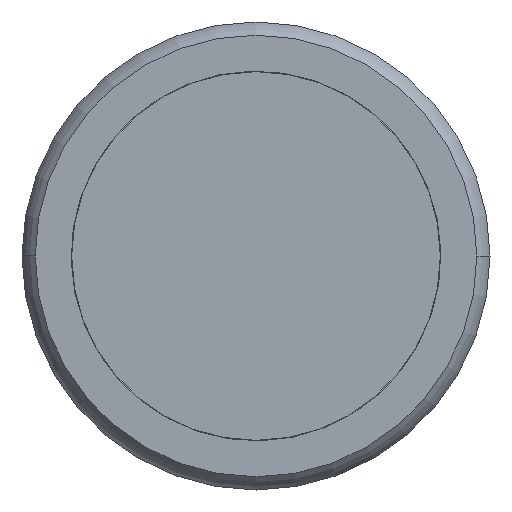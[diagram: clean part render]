
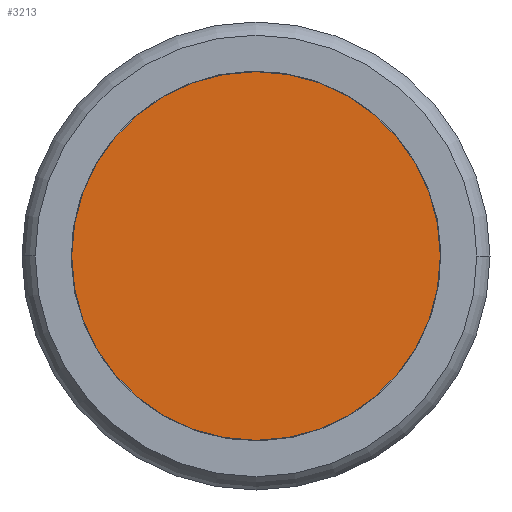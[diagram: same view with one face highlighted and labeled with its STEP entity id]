
A CAD part, front view. The second image highlights one B-rep face of the part: STEP entity #3213.
In plain terms, the highlighted planar face has unit normal (0, -1, 0) as drawn and (-1, 0, 0) by its records, which use the part's own axes.
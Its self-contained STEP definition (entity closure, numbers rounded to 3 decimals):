
#42 = EDGE_CURVE ( 'NONE', #5435, #5458, #3351, .T. ) ;
#1473 = DIRECTION ( 'NONE',  ( 1., 0., 0. ) ) ;
#1491 = CARTESIAN_POINT ( 'NONE',  ( 0.374, 0., 0. ) ) ;
#1493 = DIRECTION ( 'NONE',  ( 0., 1., 0. ) ) ;
#1960 = CARTESIAN_POINT ( 'NONE',  ( 0.374, 0., 1.58 ) ) ;
#2023 = CARTESIAN_POINT ( 'NONE',  ( 0.374, 0., -1.58 ) ) ;
#3213 = ADVANCED_FACE ( 'NONE', ( #6400 ), #6415, .F. ) ;
#3346 = AXIS2_PLACEMENT_3D ( 'NONE', #3882, #3851, #3877 ) ;
#3351 = CIRCLE ( 'NONE', #3346, 1.58 ) ;
#3851 = DIRECTION ( 'NONE',  ( 1., 0., 0. ) ) ;
#3877 = DIRECTION ( 'NONE',  ( 0., 1., 0. ) ) ;
#3882 = CARTESIAN_POINT ( 'NONE',  ( 0.374, 0., 0. ) ) ;
#5017 = ORIENTED_EDGE ( 'NONE', *, *, #42, .F. ) ;
#5026 = ORIENTED_EDGE ( 'NONE', *, *, #8127, .F. ) ;
#5435 = VERTEX_POINT ( 'NONE', #1960 ) ;
#5458 = VERTEX_POINT ( 'NONE', #2023 ) ;
#5668 = EDGE_LOOP ( 'NONE', ( #5017, #5026 ) ) ;
#6388 = CARTESIAN_POINT ( 'NONE',  ( 0.374, 1.735, -10. ) ) ;
#6400 = FACE_OUTER_BOUND ( 'NONE', #5668, .T. ) ;
#6415 = PLANE ( 'NONE',  #7649 ) ;
#6423 = DIRECTION ( 'NONE',  ( 1., 0., 0. ) ) ;
#6424 = DIRECTION ( 'NONE',  ( 0., 1., 0. ) ) ;
#7649 = AXIS2_PLACEMENT_3D ( 'NONE', #6388, #6423, #6424 ) ;
#8006 = CIRCLE ( 'NONE', #8037, 1.58 ) ;
#8037 = AXIS2_PLACEMENT_3D ( 'NONE', #1491, #1473, #1493 ) ;
#8127 = EDGE_CURVE ( 'NONE', #5458, #5435, #8006, .T. ) ;
